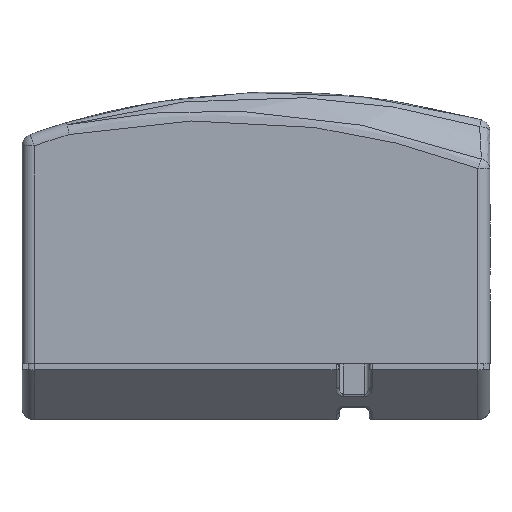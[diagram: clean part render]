
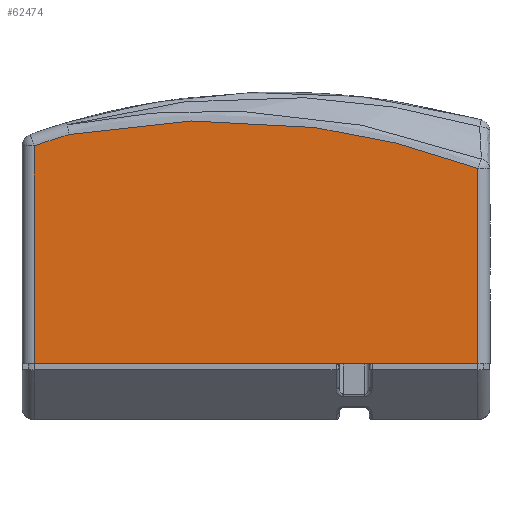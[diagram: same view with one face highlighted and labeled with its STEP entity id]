
A CAD part, left-side view. The second image highlights one B-rep face of the part: STEP entity #62474.
In plain terms, the highlighted planar face has unit normal (-1, 0, 0) as drawn and (0, 0, -1) by its records, which use the part's own axes.
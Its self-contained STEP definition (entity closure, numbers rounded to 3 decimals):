
#2782=PLANE('',#69148);
#3614=B_SPLINE_CURVE_WITH_KNOTS('',3,(#114597,#114598,#114599,#114600,#114601,
#114602),.UNSPECIFIED.,.F.,.F.,(4,1,1,4),(-28.219,-20.384,
-12.518,-0.879),.UNSPECIFIED.);
#3615=B_SPLINE_CURVE_WITH_KNOTS('',3,(#114604,#114605,#114606,#114607),
 .UNSPECIFIED.,.F.,.F.,(4,4),(-0.879,-0.719),
 .UNSPECIFIED.);
#7407=FACE_OUTER_BOUND('',#10907,.T.);
#10907=EDGE_LOOP('',(#54174,#54175,#54176,#54177,#54178,#54179));
#14161=CIRCLE('',#69116,492.);
#17951=LINE('',#112531,#22074);
#18498=LINE('',#117942,#22621);
#18499=LINE('',#117944,#22622);
#22074=VECTOR('',#83418,10.);
#22621=VECTOR('',#85555,10.);
#22622=VECTOR('',#85558,10.);
#27320=VERTEX_POINT('',#112528);
#27321=VERTEX_POINT('',#112530);
#27520=VERTEX_POINT('',#113975);
#27642=VERTEX_POINT('',#114552);
#27644=VERTEX_POINT('',#114603);
#28071=VERTEX_POINT('',#117331);
#35711=EDGE_CURVE('',#27321,#27320,#17951,.T.);
#36118=EDGE_CURVE('',#27642,#27520,#3614,.T.);
#36119=EDGE_CURVE('',#27520,#27644,#3615,.T.);
#36885=EDGE_CURVE('',#28071,#27642,#14161,.T.);
#36915=EDGE_CURVE('',#27644,#27320,#18498,.T.);
#36916=EDGE_CURVE('',#27321,#28071,#18499,.T.);
#54174=ORIENTED_EDGE('',*,*,#36118,.F.);
#54175=ORIENTED_EDGE('',*,*,#36885,.F.);
#54176=ORIENTED_EDGE('',*,*,#36916,.F.);
#54177=ORIENTED_EDGE('',*,*,#35711,.T.);
#54178=ORIENTED_EDGE('',*,*,#36915,.F.);
#54179=ORIENTED_EDGE('',*,*,#36119,.F.);
#62474=ADVANCED_FACE('',(#7407),#2782,.F.);
#69116=AXIS2_PLACEMENT_3D('',#117403,#85485,#85486);
#69148=AXIS2_PLACEMENT_3D('',#117943,#85556,#85557);
#83418=DIRECTION('',(-1.,0.,0.));
#85485=DIRECTION('center_axis',(0.,0.,1.));
#85486=DIRECTION('ref_axis',(0.33,0.944,0.));
#85555=DIRECTION('',(0.,-1.,0.));
#85556=DIRECTION('center_axis',(0.,0.,1.));
#85557=DIRECTION('ref_axis',(1.,0.,0.));
#85558=DIRECTION('',(0.,1.,0.));
#112528=CARTESIAN_POINT('',(-252.,-28.,-165.));
#112530=CARTESIAN_POINT('',(42.,-28.,-165.));
#112531=CARTESIAN_POINT('',(50.,-28.,-165.));
#113975=CARTESIAN_POINT('',(-250.5,101.921,-165.));
#114552=CARTESIAN_POINT('',(18.621,123.877,-165.));
#114597=CARTESIAN_POINT('Ctrl Pts',(18.621,123.877,-165.));
#114598=CARTESIAN_POINT('Ctrl Pts',(-7.017,128.857,
-165.));
#114599=CARTESIAN_POINT('Ctrl Pts',(-59.179,134.802,
-165.));
#114600=CARTESIAN_POINT('Ctrl Pts',(-150.51,130.846,
-165.));
#114601=CARTESIAN_POINT('Ctrl Pts',(-214.118,115.393,
-165.));
#114602=CARTESIAN_POINT('Ctrl Pts',(-250.5,101.921,
-165.));
#114603=CARTESIAN_POINT('',(-252.,101.363,-165.));
#114604=CARTESIAN_POINT('Ctrl Pts',(-250.5,101.921,
-165.));
#114605=CARTESIAN_POINT('Ctrl Pts',(-251.,101.736,
-165.));
#114606=CARTESIAN_POINT('Ctrl Pts',(-251.5,101.55,
-165.));
#114607=CARTESIAN_POINT('Ctrl Pts',(-252.,101.363,-165.));
#117331=CARTESIAN_POINT('',(42.,116.356,-165.));
#117403=CARTESIAN_POINT('Origin',(-120.326,-348.095,-165.));
#117942=CARTESIAN_POINT('',(-252.,89.705,-165.));
#117943=CARTESIAN_POINT('Origin',(-106.664,47.41,-165.));
#117944=CARTESIAN_POINT('',(42.,9.705,-165.));
